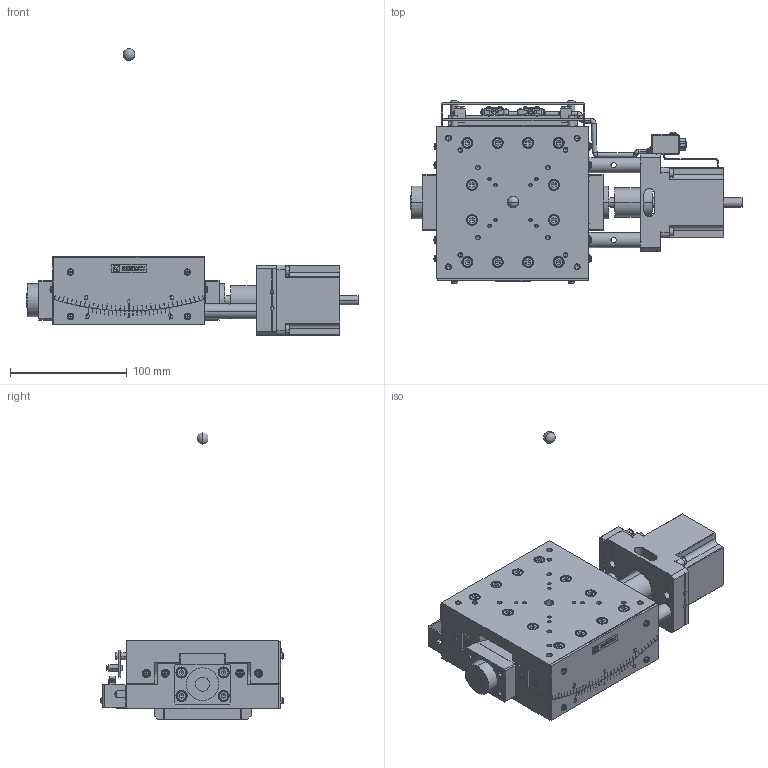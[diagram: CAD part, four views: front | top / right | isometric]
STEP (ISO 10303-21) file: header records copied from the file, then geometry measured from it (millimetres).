
FILE_DESCRIPTION( (''), '2;1');
FILE_NAME ('MVSA13A-RM01.stp','2021-03-16T10:52:22',(''),(''),'spGate 15.6.6','','');
FILE_SCHEMA (('AUTOMOTIVE_DESIGN'));
Length unit declared in the file: millimetre
Products named in the file (4): Assembly; MVSA13A-RM01-prt0; MVSA13A-RM01-prt1; MVSA13A-RM01-prt2
Assembly tree (3 placements, depth 2):
  Assembly
    MVSA13A-RM01-prt0
    MVSA13A-RM01-prt1
    MVSA13A-RM01-prt2
Bounding box: 283.8 x 156.67 x 245 mm (x, y, z)
Volume: 1282767.3 mm3; surface area: 209053.2 mm2
Topology: 3 solids, 3 shells, 3690 faces, 9327 edges, 5702 vertices
Faces by surface type: plane 2092, cylinder 965, bspline 560, sphere 73
Entity records: 188895 total; most frequent: CARTESIAN_POINT 30909, ORIENTED_EDGE 18266, DIRECTION 16720, COLOUR_RGB 12826, PRESENTATION_STYLE_ASSIGNMENT 12826, STYLED_ITEM 12826, EDGE_CURVE 9133, DRAUGHTING_PRE_DEFINED_CURVE_FONT 9133
